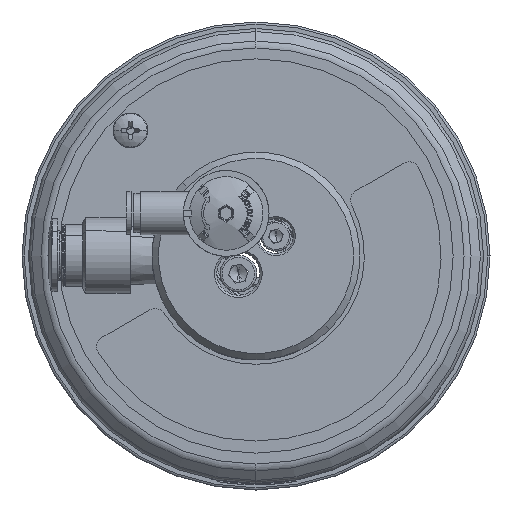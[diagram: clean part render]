
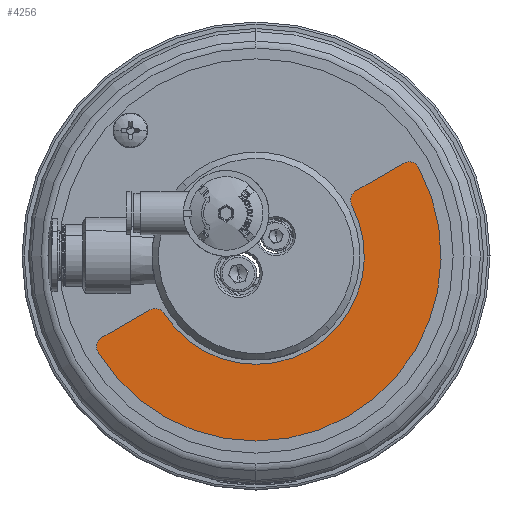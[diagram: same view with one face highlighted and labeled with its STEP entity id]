
A CAD part, front view. The second image highlights one B-rep face of the part: STEP entity #4256.
In plain terms, the highlighted planar face has unit normal (0, -1, 0).
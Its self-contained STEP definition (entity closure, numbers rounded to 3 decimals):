
#213 = AXIS2_PLACEMENT_3D ( 'NONE', #34159, #35267, #34985 ) ;
#1223 = DIRECTION ( 'NONE',  ( 0., -1., 0. ) ) ;
#2698 = CARTESIAN_POINT ( 'NONE',  ( 0., 0.4, -25. ) ) ;
#2989 = DIRECTION ( 'NONE',  ( 0., 0., -1. ) ) ;
#4188 = VERTEX_POINT ( 'NONE', #35234 ) ;
#4242 = EDGE_CURVE ( 'NONE', #24900, #24072, #28611, .T. ) ;
#4256 = ADVANCED_FACE ( 'NONE', ( #52126 ), #13598, .T. ) ;
#4468 = CARTESIAN_POINT ( 'NONE',  ( -23.3, 0.4, -14.607 ) ) ;
#6887 = ORIENTED_EDGE ( 'NONE', *, *, #12464, .T. ) ;
#7580 = CIRCLE ( 'NONE', #17442, 2.5 ) ;
#7844 = VECTOR ( 'NONE', #37772, 1000. ) ;
#8357 = ORIENTED_EDGE ( 'NONE', *, *, #37166, .T. ) ;
#8930 = VERTEX_POINT ( 'NONE', #47199 ) ;
#9752 = AXIS2_PLACEMENT_3D ( 'NONE', #28173, #53740, #36338 ) ;
#10504 = DIRECTION ( 'NONE',  ( 0., -1., 0. ) ) ;
#10765 = CARTESIAN_POINT ( 'NONE',  ( -34.303, 0.4, -20.96 ) ) ;
#11073 = LINE ( 'NONE', #24007, #37491 ) ;
#11140 = DIRECTION ( 'NONE',  ( 0., 1., 0. ) ) ;
#11355 = DIRECTION ( 'NONE',  ( -0.866, 0., -0.5 ) ) ;
#12132 = DIRECTION ( 'NONE',  ( 0., 1., 0. ) ) ;
#12464 = EDGE_CURVE ( 'NONE', #18553, #50303, #42533, .T. ) ;
#12687 = AXIS2_PLACEMENT_3D ( 'NONE', #15900, #11140, #2989 ) ;
#13580 = CIRCLE ( 'NONE', #49510, 2.5 ) ;
#13598 = PLANE ( 'NONE',  #9752 ) ;
#13762 = EDGE_CURVE ( 'NONE', #4188, #14591, #46295, .T. ) ;
#14321 = ORIENTED_EDGE ( 'NONE', *, *, #4242, .T. ) ;
#14591 = VERTEX_POINT ( 'NONE', #19005 ) ;
#15078 = EDGE_CURVE ( 'NONE', #27169, #44636, #51291, .T. ) ;
#15231 = ORIENTED_EDGE ( 'NONE', *, *, #48221, .T. ) ;
#15387 = CIRCLE ( 'NONE', #12687, 25. ) ;
#15405 = CARTESIAN_POINT ( 'NONE',  ( -35.553, 0.4, -18.795 ) ) ;
#15900 = CARTESIAN_POINT ( 'NONE',  ( 0., 0.4, 0. ) ) ;
#16571 = CARTESIAN_POINT ( 'NONE',  ( 0., 0.4, -42.7 ) ) ;
#16687 = CARTESIAN_POINT ( 'NONE',  ( 23.05, 0.4, 15.04 ) ) ;
#16743 = ORIENTED_EDGE ( 'NONE', *, *, #15078, .T. ) ;
#17442 = AXIS2_PLACEMENT_3D ( 'NONE', #36451, #27729, #44620 ) ;
#18553 = VERTEX_POINT ( 'NONE', #26709 ) ;
#19005 = CARTESIAN_POINT ( 'NONE',  ( -24.55, 0.4, -12.442 ) ) ;
#19889 = AXIS2_PLACEMENT_3D ( 'NONE', #22471, #35681, #36228 ) ;
#19940 = CIRCLE ( 'NONE', #213, 2.5 ) ;
#22471 = CARTESIAN_POINT ( 'NONE',  ( 0., 0.4, 0. ) ) ;
#23857 = CARTESIAN_POINT ( 'NONE',  ( 34.053, 0.4, 21.393 ) ) ;
#24007 = CARTESIAN_POINT ( 'NONE',  ( -35.553, 0.4, -18.795 ) ) ;
#24072 = VERTEX_POINT ( 'NONE', #16571 ) ;
#24900 = VERTEX_POINT ( 'NONE', #52675 ) ;
#25257 = ORIENTED_EDGE ( 'NONE', *, *, #32845, .T. ) ;
#25547 = DIRECTION ( 'NONE',  ( 0., -1., 0. ) ) ;
#26024 = EDGE_CURVE ( 'NONE', #8930, #27169, #7580, .T. ) ;
#26138 = CIRCLE ( 'NONE', #19889, 42.7 ) ;
#26709 = CARTESIAN_POINT ( 'NONE',  ( 22.091, 0.4, 11.704 ) ) ;
#27169 = VERTEX_POINT ( 'NONE', #23857 ) ;
#27729 = DIRECTION ( 'NONE',  ( 0., -1., 0. ) ) ;
#28173 = CARTESIAN_POINT ( 'NONE',  ( 35.303, 0.4, 19.228 ) ) ;
#28611 = CIRCLE ( 'NONE', #30414, 42.7 ) ;
#30414 = AXIS2_PLACEMENT_3D ( 'NONE', #40012, #1223, #49016 ) ;
#30525 = CARTESIAN_POINT ( 'NONE',  ( 23.05, 0.4, 15.04 ) ) ;
#31346 = ORIENTED_EDGE ( 'NONE', *, *, #44227, .T. ) ;
#32845 = EDGE_CURVE ( 'NONE', #44636, #18553, #19940, .T. ) ;
#33431 = VERTEX_POINT ( 'NONE', #15405 ) ;
#34129 = EDGE_LOOP ( 'NONE', ( #47500, #16743, #25257, #6887, #15231, #44415, #31346, #8357, #14321, #45716 ) ) ;
#34159 = CARTESIAN_POINT ( 'NONE',  ( 24.3, 0.4, 12.875 ) ) ;
#34985 = DIRECTION ( 'NONE',  ( 0., 0., -1. ) ) ;
#35234 = CARTESIAN_POINT ( 'NONE',  ( -21.182, 0.4, -13.279 ) ) ;
#35267 = DIRECTION ( 'NONE',  ( 0., -1., 0. ) ) ;
#35681 = DIRECTION ( 'NONE',  ( 0., -1., 0. ) ) ;
#36228 = DIRECTION ( 'NONE',  ( 0., 0., -1. ) ) ;
#36338 = DIRECTION ( 'NONE',  ( 0., 0., -1. ) ) ;
#36352 = DIRECTION ( 'NONE',  ( 0., 0., -1. ) ) ;
#36451 = CARTESIAN_POINT ( 'NONE',  ( 35.303, 0.4, 19.228 ) ) ;
#37166 = EDGE_CURVE ( 'NONE', #33431, #24900, #13580, .T. ) ;
#37491 = VECTOR ( 'NONE', #11355, 1000. ) ;
#37772 = DIRECTION ( 'NONE',  ( -0.866, 0., -0.5 ) ) ;
#38208 = DIRECTION ( 'NONE',  ( 0., 0., -1. ) ) ;
#40012 = CARTESIAN_POINT ( 'NONE',  ( 0., 0.4, 0. ) ) ;
#42533 = CIRCLE ( 'NONE', #54058, 25. ) ;
#44227 = EDGE_CURVE ( 'NONE', #14591, #33431, #11073, .T. ) ;
#44415 = ORIENTED_EDGE ( 'NONE', *, *, #13762, .T. ) ;
#44620 = DIRECTION ( 'NONE',  ( 0., 0., -1. ) ) ;
#44636 = VERTEX_POINT ( 'NONE', #30525 ) ;
#45716 = ORIENTED_EDGE ( 'NONE', *, *, #54970, .T. ) ;
#46152 = CARTESIAN_POINT ( 'NONE',  ( 0., 0.4, 0. ) ) ;
#46295 = CIRCLE ( 'NONE', #48110, 2.5 ) ;
#46434 = DIRECTION ( 'NONE',  ( 0., 0., -1. ) ) ;
#47199 = CARTESIAN_POINT ( 'NONE',  ( 37.499, 0.4, 20.424 ) ) ;
#47500 = ORIENTED_EDGE ( 'NONE', *, *, #26024, .T. ) ;
#48110 = AXIS2_PLACEMENT_3D ( 'NONE', #4468, #25547, #38208 ) ;
#48221 = EDGE_CURVE ( 'NONE', #50303, #4188, #15387, .T. ) ;
#49016 = DIRECTION ( 'NONE',  ( 0., 0., -1. ) ) ;
#49510 = AXIS2_PLACEMENT_3D ( 'NONE', #10765, #10504, #36352 ) ;
#50303 = VERTEX_POINT ( 'NONE', #2698 ) ;
#51291 = LINE ( 'NONE', #16687, #7844 ) ;
#52126 = FACE_OUTER_BOUND ( 'NONE', #34129, .T. ) ;
#52675 = CARTESIAN_POINT ( 'NONE',  ( -36.437, 0.4, -22.263 ) ) ;
#53740 = DIRECTION ( 'NONE',  ( 0., -1., 0. ) ) ;
#54058 = AXIS2_PLACEMENT_3D ( 'NONE', #46152, #12132, #46434 ) ;
#54970 = EDGE_CURVE ( 'NONE', #24072, #8930, #26138, .T. ) ;
